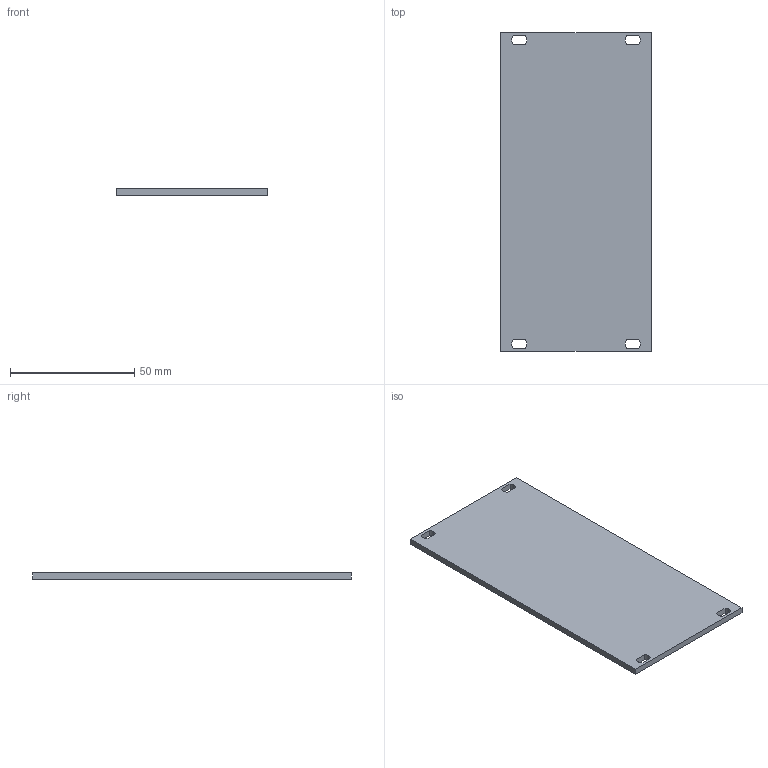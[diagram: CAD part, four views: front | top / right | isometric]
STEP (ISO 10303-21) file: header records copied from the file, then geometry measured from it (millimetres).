
FILE_DESCRIPTION(('STEP AP214'),'1');
FILE_NAME('30807485.stp','2019-03-12T17:59:07',('TraceParts'),('TraceParts S.A.'),'Spatial InterOp 3D',' ',' ');
FILE_SCHEMA(('automotive_design'));
Length unit declared in the file: millimetre
Products named in the file (1): 30807485
Bounding box: 60.62 x 128.4 x 2.5 mm (x, y, z)
Volume: 19275 mm3; surface area: 16533 mm2
Topology: 1 solids, 1 shells, 30 faces, 84 edges, 56 vertices
Faces by surface type: cylinder 16, plane 14
Entity records: 1252 total; most frequent: DIRECTION 178, CARTESIAN_POINT 171, ORIENTED_EDGE 168, EDGE_CURVE 84, AXIS2_PLACEMENT_3D 63, VERTEX_POINT 56, LINE 52, VECTOR 52
